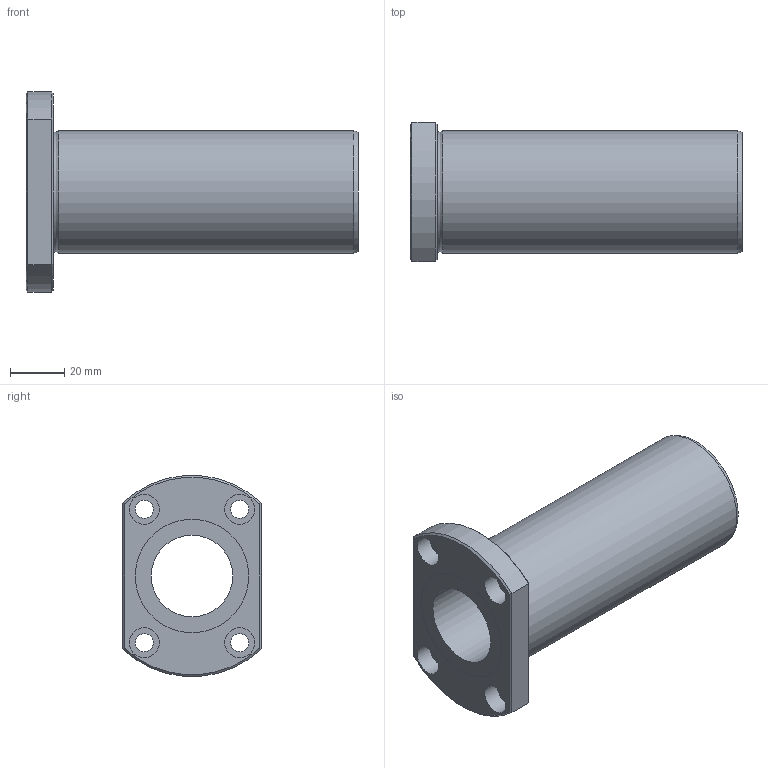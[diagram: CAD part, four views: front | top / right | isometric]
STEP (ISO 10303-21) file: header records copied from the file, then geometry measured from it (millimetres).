
FILE_DESCRIPTION((''),'2;1');
FILE_NAME('D:\製品 (図面)\カタログ用3D\リニアベアリング関連\STEP形式\LFDT\LFDT30B.stp','2010-06-03T09:47:14',('Tsuchiya'),(''),'Autodesk Inventor 10','Autodesk Inventor 10','');
FILE_SCHEMA(('AUTOMOTIVE_DESIGN { 1 0 10303 214 1 1 1 1 }'));
Length unit declared in the file: millimetre
Products named in the file (1): LFDT30B
Bounding box: 122 x 51 x 73.74 mm (x, y, z)
Volume: 123020.2 mm3; surface area: 35740.8 mm2
Topology: 1 solids, 1 shells, 35 faces, 68 edges, 42 vertices
Faces by surface type: plane 15, cylinder 14, cone 4, torus 1, bspline 1
Full cylindrical faces by diameter (mm): 6.6 x4, 11 x4, 30 x1, 41.7 x2, 45 x1
Entity records: 935 total; most frequent: CARTESIAN_POINT 218, DIRECTION 150, ORIENTED_EDGE 108, AXIS2_PLACEMENT_3D 69, EDGE_LOOP 66, EDGE_CURVE 54, VERTEX_POINT 42, FACE_OUTER_BOUND 35
